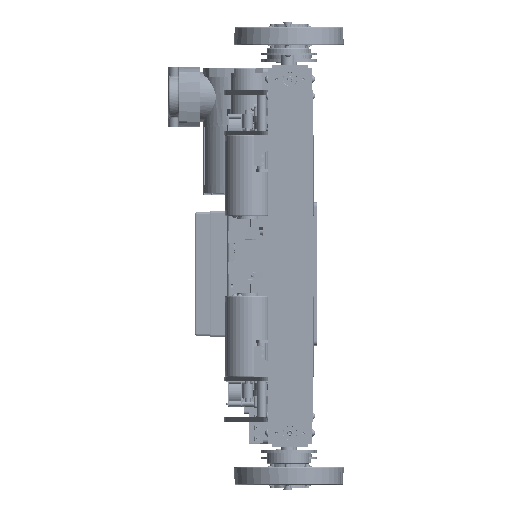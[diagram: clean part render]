
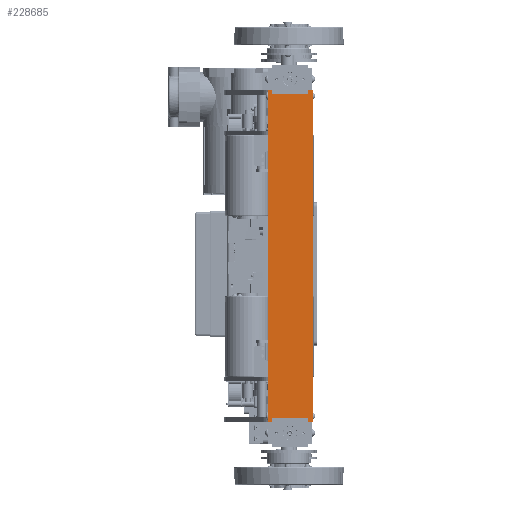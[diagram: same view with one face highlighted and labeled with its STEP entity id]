
A CAD part, left-side view. The second image highlights one B-rep face of the part: STEP entity #228685.
In plain terms, the highlighted planar face has unit normal (-1, 0, 0) as drawn and (0, 0, 1) by its records, which use the part's own axes.
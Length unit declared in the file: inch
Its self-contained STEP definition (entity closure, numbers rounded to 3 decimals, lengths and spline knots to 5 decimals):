
#228258=DIRECTION('',(-1.,0.,0.));
#228259=VECTOR('',#228258,18.5);
#228260=CARTESIAN_POINT('',(18.5,2.5,1.25));
#228261=LINE('',#228260,#228259);
#228265=DIRECTION('',(0.,1.,0.));
#228266=VECTOR('',#228265,2.5);
#228267=CARTESIAN_POINT('',(18.5,0.,1.25));
#228268=LINE('',#228267,#228266);
#228272=DIRECTION('',(1.,0.,0.));
#228273=VECTOR('',#228272,18.5);
#228274=CARTESIAN_POINT('',(0.,0.,1.25));
#228275=LINE('',#228274,#228273);
#228279=DIRECTION('',(0.,-1.,0.));
#228280=VECTOR('',#228279,2.5);
#228281=CARTESIAN_POINT('',(0.,2.5,1.25));
#228282=LINE('',#228281,#228280);
#228580=CARTESIAN_POINT('',(18.5,2.5,1.25));
#228581=CARTESIAN_POINT('',(0.,2.5,1.25));
#228582=VERTEX_POINT('',#228580);
#228583=VERTEX_POINT('',#228581);
#228588=CARTESIAN_POINT('',(18.5,0.,1.25));
#228589=VERTEX_POINT('',#228588);
#228592=CARTESIAN_POINT('',(0.,0.,1.25));
#228593=VERTEX_POINT('',#228592);
#228671=CARTESIAN_POINT('',(9.25,1.25,1.25));
#228672=DIRECTION('',(0.,0.,1.));
#228673=DIRECTION('',(1.,0.,0.));
#228674=AXIS2_PLACEMENT_3D('',#228671,#228672,#228673);
#228675=PLANE('',#228674);
#228677=ORIENTED_EDGE('',*,*,#228676,.F.);
#228679=ORIENTED_EDGE('',*,*,#228678,.F.);
#228680=ORIENTED_EDGE('',*,*,#228649,.F.);
#228682=ORIENTED_EDGE('',*,*,#228681,.F.);
#228683=EDGE_LOOP('',(#228677,#228679,#228680,#228682));
#228684=FACE_OUTER_BOUND('',#228683,.F.);
#228649=EDGE_CURVE('',#228593,#228589,#228275,.T.);
#228676=EDGE_CURVE('',#228582,#228583,#228261,.T.);
#228678=EDGE_CURVE('',#228589,#228582,#228268,.T.);
#228681=EDGE_CURVE('',#228583,#228593,#228282,.T.);
#228685=ADVANCED_FACE('',(#228684),#228675,.T.);
